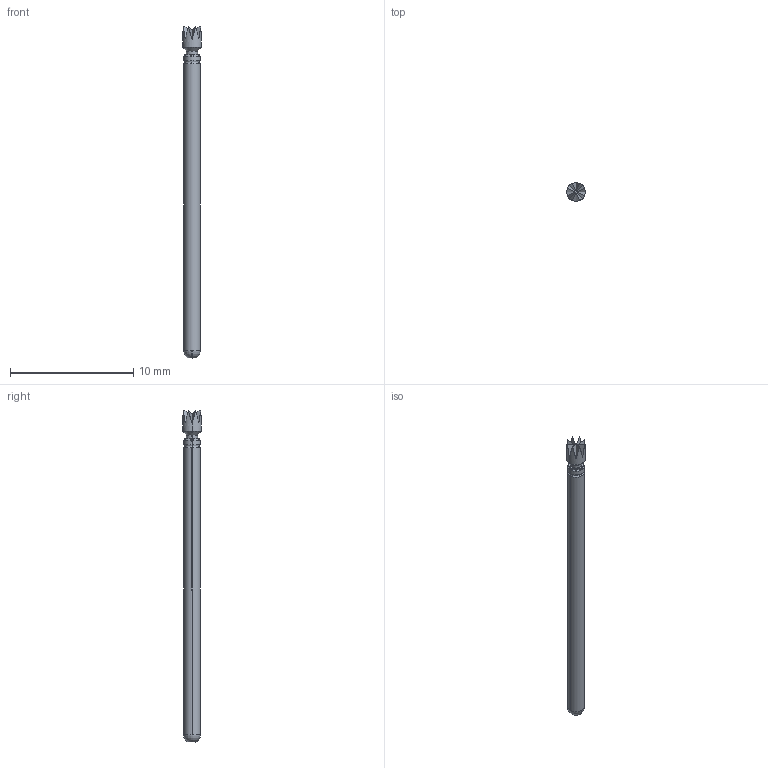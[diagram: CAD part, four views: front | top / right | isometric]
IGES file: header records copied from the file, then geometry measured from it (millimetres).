
Start section: SolidWorks IGES file using analytic representation for surfaces
Global section: file name: C:\Users\gzetwo.ECT\Desktop\LTP-25\LTP-25Z FULL.IGS; native system: SolidWorks 2015; preprocessor: SolidWorks 2015; author: gzetwo; date: 160107.163744; units: inch
Bounding box: 1.52 x 1.52 x 26.92 mm (x, y, z)
Surface area: 122.4 mm2 (no closed solid volume)
Topology: 0 solids, 0 shells, 38 faces, 210 edges, 210 vertices
Faces by surface type: bspline 22, revolution 16
